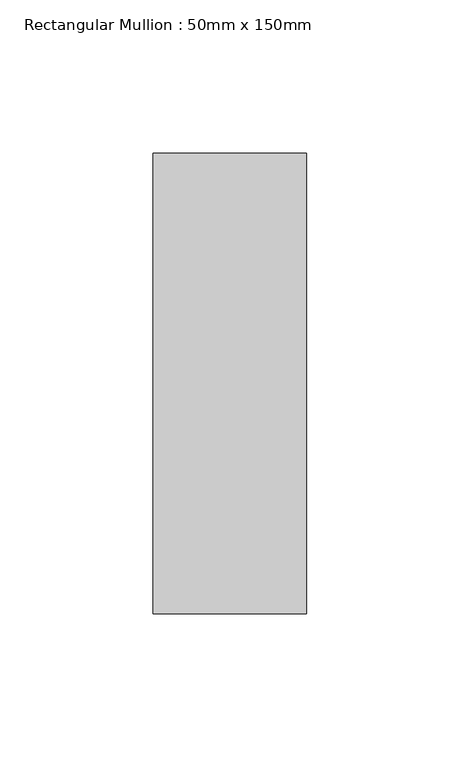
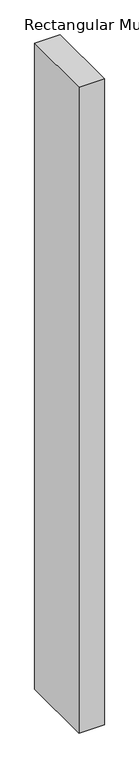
"""IFC4 building model written with IfcOpenShell, lengths in millimetres: member geometry, Rectangular Mullion : 50mm x 150mm."""

import ifcopenshell
import ifcopenshell.guid

model = None  # the IFC model being written
_history = None  # IfcOwnerHistory: only IFC2X3 demands one
_inside = {}  # id of a spatial element -> (the spatial element, [elements in it])
_under = {}  # id of a project, library or spatial element -> (it, [spatial elements below it])
_declared = {}  # id of a project -> (the project, [libraries it declares])
_typed = {}  # id of a type object -> (the type object, [elements of that type])
_made_of = {}  # id of a material, layer set ... -> (it, [elements and type objects made of it])


def new_model(schema):
    """Start an empty IFC model of exactly this schema.

    Asked for "IFC4X3", IfcOpenShell would pick the latest addendum, in which some entities
    have other attributes; the version numbers below select the first issue.
    IFC2X3 requires an IfcOwnerHistory on every rooted entity: one is made here for all.
    """
    global model, _history
    if schema == "IFC4X3":
        model = ifcopenshell.file(schema_version=(4, 3, 0, 0))
    else:
        model = ifcopenshell.file(schema=schema)
    _inside.clear()
    _under.clear()
    _declared.clear()
    _typed.clear()
    _made_of.clear()
    _history = None
    if model.schema == "IFC2X3":
        org = make("IfcOrganization", Name="unknown")
        user = make(
            "IfcPersonAndOrganization",
            ThePerson=make("IfcPerson", FamilyName="unknown"),
            TheOrganization=org,
        )
        app = make(
            "IfcApplication",
            ApplicationDeveloper=org,
            Version="unknown",
            ApplicationFullName="unknown",
            ApplicationIdentifier="unknown",
        )
        _history = make(
            "IfcOwnerHistory",
            OwningUser=user,
            OwningApplication=app,
            ChangeAction="ADDED",
            CreationDate=0,
        )
    return model


def make(cls, **values):
    """One entity of the class cls with the attributes given. An attribute that is None is left unset."""
    return model.create_entity(
        cls, **{name: value for name, value in values.items() if value is not None}
    )


def rooted(cls, **values):
    """An entity with a GlobalId (a new one), such as an element, a storey or a relation."""
    return make(cls, GlobalId=ifcopenshell.guid.new(), OwnerHistory=_history, **values)


def si_unit(unit_type, name, prefix=None):
    """IfcSIUnit, for example si_unit("LENGTHUNIT", "METRE", prefix="MILLI")."""
    return make("IfcSIUnit", UnitType=unit_type, Prefix=prefix, Name=name)


def assignment(units):
    """IfcUnitAssignment: the units of a project."""
    return None if units is None else make("IfcUnitAssignment", Units=units)


def point(xyz):
    """IfcCartesianPoint."""
    return None if xyz is None else make("IfcCartesianPoint", Coordinates=xyz)


def direction(xyz):
    """IfcDirection."""
    return None if xyz is None else make("IfcDirection", DirectionRatios=xyz)


def frame(location, z_axis=None, x_axis=None):
    """IfcAxis2Placement3D, a coordinate frame: its origin and axes. An axis left out is left unset."""
    return make(
        "IfcAxis2Placement3D",
        Location=point(location),
        Axis=direction(z_axis),
        RefDirection=direction(x_axis),
    )


def origin():
    """The frame at (0, 0, 0) with its axes left unset."""
    return frame((0.0, 0.0, 0.0))


def place(relative_to, where):
    """IfcLocalPlacement: puts the frame where relative to a parent placement (None: the world)."""
    return make(
        "IfcLocalPlacement", PlacementRelTo=relative_to, RelativePlacement=where
    )


def context(
    kind, dimensions, precision=None, world=None, true_north=None, identifier=None
):
    """IfcGeometricRepresentationContext, for example the 3D "Model" context."""
    return make(
        "IfcGeometricRepresentationContext",
        ContextIdentifier=identifier,
        ContextType=kind,
        CoordinateSpaceDimension=dimensions,
        Precision=precision,
        WorldCoordinateSystem=world,
        TrueNorth=true_north,
    )


def project(units=None, contexts=None):
    """IfcProject with its units and contexts."""
    return rooted(
        "IfcProject",
        Name="project",
        RepresentationContexts=contexts,
        UnitsInContext=assignment(units),
    )


def spatial(cls, under=None, at=None, **own):
    """A site, building, storey or space (cls), placed at a placement, below another one or the project."""
    s = rooted(cls, ObjectPlacement=at, **own)
    if under is not None:
        _under.setdefault(under.id(), (under, []))[1].append(s)
    return s


def polyline(points):
    """IfcPolyline through the points."""
    return make("IfcPolyline", Points=[point(p) for p in points])


def outline(outer, holes=None, kind="AREA"):
    """IfcArbitraryClosedProfileDef: a profile drawn as a closed curve; with holes, ...WithVoids."""
    if holes is None:
        return make("IfcArbitraryClosedProfileDef", ProfileType=kind, OuterCurve=outer)
    return make(
        "IfcArbitraryProfileDefWithVoids",
        ProfileType=kind,
        OuterCurve=outer,
        InnerCurves=holes,
    )


def extrude(swept, where, along, depth):
    """IfcExtrudedAreaSolid: the profile swept, set in the frame where, extruded along a direction by depth."""
    return make(
        "IfcExtrudedAreaSolid",
        SweptArea=swept,
        Position=where,
        ExtrudedDirection=direction(along),
        Depth=depth,
    )


def shape(context_of_items, identifier, shape_type, items):
    """IfcShapeRepresentation: the items that make up one representation, for example the "Body"."""
    return make(
        "IfcShapeRepresentation",
        ContextOfItems=context_of_items,
        RepresentationIdentifier=identifier,
        RepresentationType=shape_type,
        Items=items,
    )


def source(mapping_origin, context_of_items, identifier, shape_type, items):
    """IfcRepresentationMap: a shape defined once, which mapped items show again and again."""
    return make(
        "IfcRepresentationMap",
        MappingOrigin=mapping_origin,
        MappedRepresentation=shape(context_of_items, identifier, shape_type, items),
    )


def transform(
    local_origin,
    x_axis=None,
    y_axis=None,
    z_axis=None,
    scale=None,
    scale2=None,
    scale3=None,
    uniform=True,
):
    """IfcCartesianTransformationOperator3D, or its non-uniform kind. x_axis, y_axis, z_axis: its Axis1, 2, 3."""
    if uniform:
        return make(
            "IfcCartesianTransformationOperator3D",
            Axis1=direction(x_axis),
            Axis2=direction(y_axis),
            LocalOrigin=point(local_origin),
            Scale=scale,
            Axis3=direction(z_axis),
        )
    return make(
        "IfcCartesianTransformationOperator3DnonUniform",
        Axis1=direction(x_axis),
        Axis2=direction(y_axis),
        LocalOrigin=point(local_origin),
        Scale=scale,
        Axis3=direction(z_axis),
        Scale2=scale2,
        Scale3=scale3,
    )


def mapped(mapping_source, mapping_target):
    """IfcMappedItem: shows the shape of a source again, moved by a transform."""
    return make(
        "IfcMappedItem", MappingSource=mapping_source, MappingTarget=mapping_target
    )


def made_of(thing, what):
    """Note that an element or type object is made of a material, layer set ...; save() writes the relation."""
    if what is not None:
        _made_of.setdefault(what.id(), (what, []))[1].append(thing)
    return thing


def element(
    cls,
    number,
    at=None,
    inside=None,
    cuts=None,
    type_object=None,
    material=None,
    context=None,
    identifier="Body",
    shape_type=None,
    held_by="IfcProductDefinitionShape",
    body=None,
    shapes=None,
    **own,
):
    """One element of the class cls, such as IfcWall. Its Tag is "e" and its number.

    at: its placement. inside: the storey or other place that contains it. cuts: it is an
    opening in that element (IfcRelVoidsElement). A single representation is given by context,
    identifier, shape_type and body (its items); several are given by shapes. held_by: the class
    of the entity that holds the representations. save() writes the other relations.
    """
    e = rooted(cls, Tag="e%d" % number, ObjectPlacement=at, **own)
    if body is not None:
        shapes = [shape(context, identifier, shape_type, body)]
    if shapes is not None:
        e.Representation = make(held_by, Representations=shapes)
    if inside is not None:
        _inside.setdefault(inside.id(), (inside, []))[1].append(e)
    if cuts is not None:
        rooted(
            "IfcRelVoidsElement", RelatingBuildingElement=cuts, RelatedOpeningElement=e
        )
    if type_object is not None:
        _typed.setdefault(type_object.id(), (type_object, []))[1].append(e)
    return made_of(e, material)


def aggregate(whole, parts):
    """IfcRelAggregates: a whole, such as a stair, and the parts it consists of."""
    return rooted("IfcRelAggregates", RelatingObject=whole, RelatedObjects=parts)


def save(model, path):
    """Write the relations noted so far, then the file.

    IfcRelAggregates (storeys below a building ...), IfcRelContainedInSpatialStructure (elements
    in a storey), IfcRelDefinesByType, IfcRelAssociatesMaterial and IfcRelDeclares: one each for
    every whole, place, type object, material and project.
    """
    for whole, parts in _under.values():
        aggregate(whole, parts)
    for where, things in _inside.values():
        rooted(
            "IfcRelContainedInSpatialStructure",
            RelatedElements=things,
            RelatingStructure=where,
        )
    for kind, things in _typed.values():
        rooted("IfcRelDefinesByType", RelatedObjects=things, RelatingType=kind)
    for what, things in _made_of.values():
        rooted("IfcRelAssociatesMaterial", RelatedObjects=things, RelatingMaterial=what)
    for by, libraries in _declared.values():
        rooted("IfcRelDeclares", RelatingContext=by, RelatedDefinitions=libraries)
    model.write(path)


def rectangular_mullion_50mm_x_150mm_4273df98(model_context):
    return source(origin(), model_context, "Body", "SweptSolid", [
        extrude(outline(polyline([(25.0, 75.0), (25.0, -75.0), (-25.0, -75.0), (-25.0, 75.0), (25.0, 75.0)])), frame((0.0, 0.0, -1338.8800777), z_axis=(0.0, 0.0, 1.0), x_axis=(1.0, 0.0, 0.0)), (0.0, 0.0, 1.0), 1338.8800777),
    ])


if __name__ == "__main__":
    model = new_model("IFC4")
    model_context = context("Model", 3, world=origin())
    ifc_project = project(units=[si_unit("LENGTHUNIT", "METRE", prefix="MILLI")], contexts=[model_context])
    site = spatial("IfcSite", under=ifc_project)
    building = spatial("IfcBuilding", under=site)
    placement = place(None, origin())
    rectangular_mullion_50mm_x_150mm_shape = rectangular_mullion_50mm_x_150mm_4273df98(model_context)
    element("IfcMember", 1, ObjectType="Rectangular Mullion : 50mm x 150mm", at=placement, inside=building, context=model_context, shape_type="MappedRepresentation", body=[
        mapped(rectangular_mullion_50mm_x_150mm_shape, transform((0.0, 0.0, 0.0), x_axis=(1.0, 0.0, 0.0), y_axis=(0.0, 1.0, 0.0), z_axis=(0.0, 0.0, 1.0))),
    ])
    save(model, "model.ifc")
